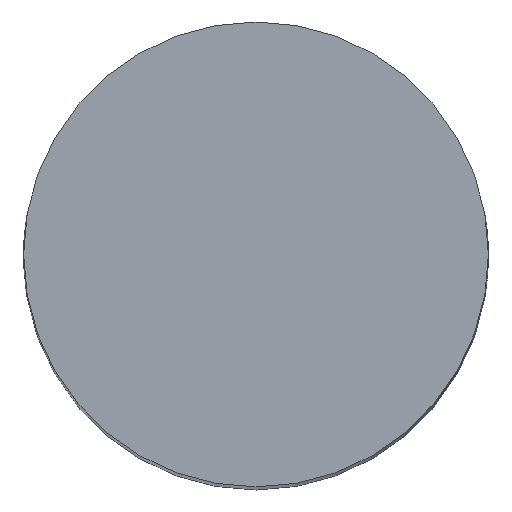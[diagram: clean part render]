
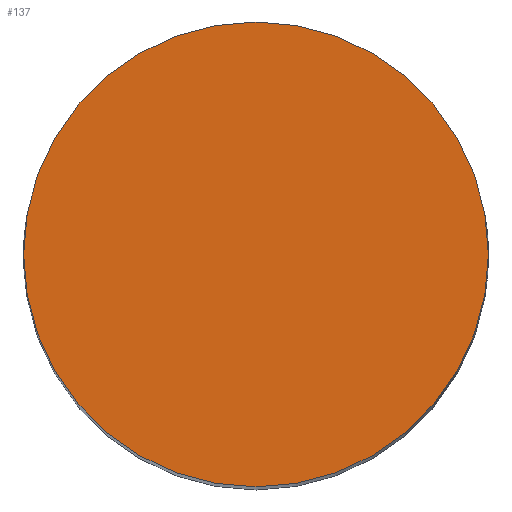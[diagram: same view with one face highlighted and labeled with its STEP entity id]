
A CAD part, top view. The second image highlights one B-rep face of the part: STEP entity #137.
In plain terms, the highlighted planar face has unit normal (0, 0, 1).
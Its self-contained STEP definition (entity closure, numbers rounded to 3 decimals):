
#45=FACE_OUTER_BOUND('',#56,.T.);
#56=EDGE_LOOP('',(#125));
#62=CIRCLE('',#162,4.);
#68=VERTEX_POINT('',#218);
#81=EDGE_CURVE('',#68,#68,#62,.T.);
#125=ORIENTED_EDGE('',*,*,#81,.T.);
#129=PLANE('',#165);
#137=ADVANCED_FACE('',(#45),#129,.T.);
#162=AXIS2_PLACEMENT_3D('',#219,#189,#190);
#165=AXIS2_PLACEMENT_3D('',#308,#199,#200);
#189=DIRECTION('center_axis',(0.,0.,1.));
#190=DIRECTION('ref_axis',(1.,0.,0.));
#199=DIRECTION('center_axis',(0.,0.,1.));
#200=DIRECTION('ref_axis',(1.,0.,0.));
#218=CARTESIAN_POINT('',(-41.724,30.688,30.));
#219=CARTESIAN_POINT('Origin',(-37.724,30.688,30.));
#308=CARTESIAN_POINT('Origin',(-37.724,30.688,30.));
